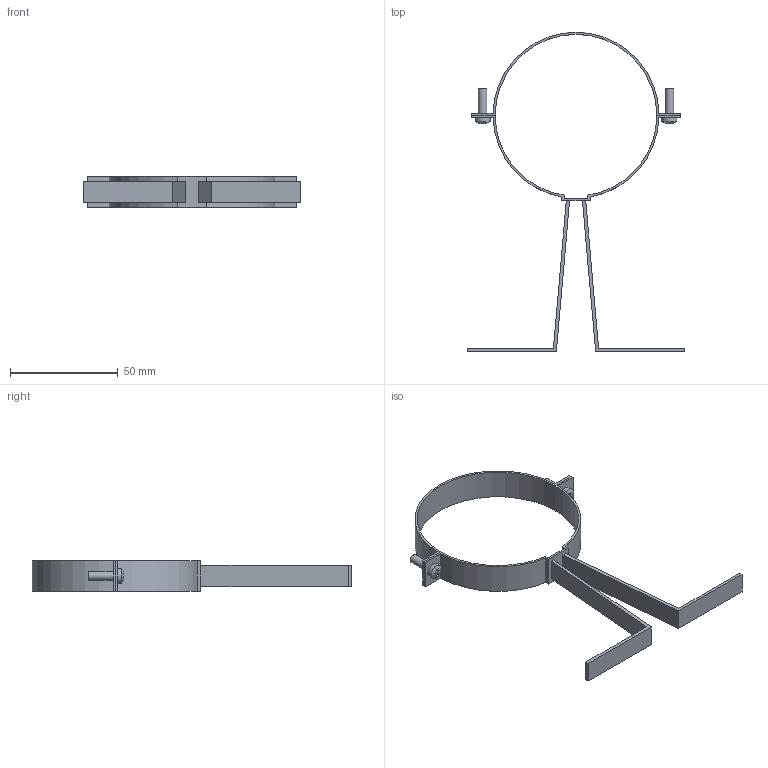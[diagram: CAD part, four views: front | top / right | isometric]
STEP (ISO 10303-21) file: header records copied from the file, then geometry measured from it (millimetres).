
FILE_DESCRIPTION( ( 'STEP AP214' ), '1' );
FILE_NAME( 'C:/Users/ilukic/Documents/ex/gebaudeentwasserung/pe/pipe bracket w_support/365856.stp', '2020-03-26T18:42:27', ( '' ), ( '' ), ' ', 'PARTsolutions', ' ' );
FILE_SCHEMA( ( 'AUTOMOTIVE_DESIGN { 1 0 10303 214 1 1 1 1 }' ) );
Length unit declared in the file: millimetre
Products named in the file (1): _365856
Bounding box: 101 x 148.23 x 14 mm (x, y, z)
Volume: 7703.5 mm3; surface area: 13939.3 mm2
Topology: 1 solids, 1 shells, 78 faces, 208 edges, 140 vertices
Faces by surface type: plane 64, cylinder 12, bspline 2
Full cylindrical faces by diameter (mm): 4 x4, 7 x2
Entity records: 3058 total; most frequent: CARTESIAN_POINT 577, ORIENTED_EDGE 384, DIRECTION 346, EDGE_CURVE 192, LINE 144, VECTOR 144, VERTEX_POINT 132, AXIS2_PLACEMENT_3D 101
